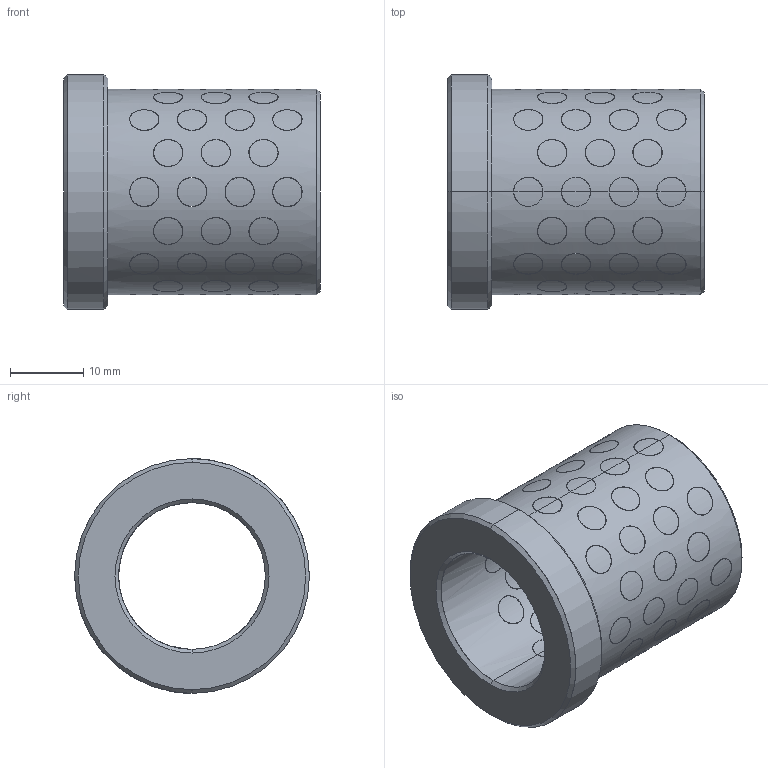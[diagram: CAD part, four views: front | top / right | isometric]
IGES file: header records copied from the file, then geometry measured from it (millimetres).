
Start section: START RECORD GO HERE.
Global section: file name: G4012035.igs; native system: DASSAULT SYSTEMES CATIA V5 R20 - www.3ds.com; preprocessor: CATIA Version 5 Release 20 ; author: r.borello; organization: CFTORINO; date: 20190624.143349; units: millimetre
Bounding box: 35 x 32 x 32 mm (x, y, z)
Surface area: 11811.2 mm2 (no closed solid volume)
Topology: 0 solids, 0 shells, 371 faces, 1612 edges, 1612 vertices
Faces by surface type: revolution 368, plane 3
